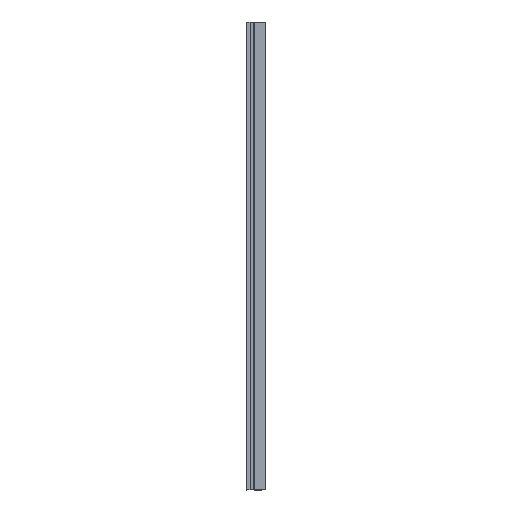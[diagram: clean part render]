
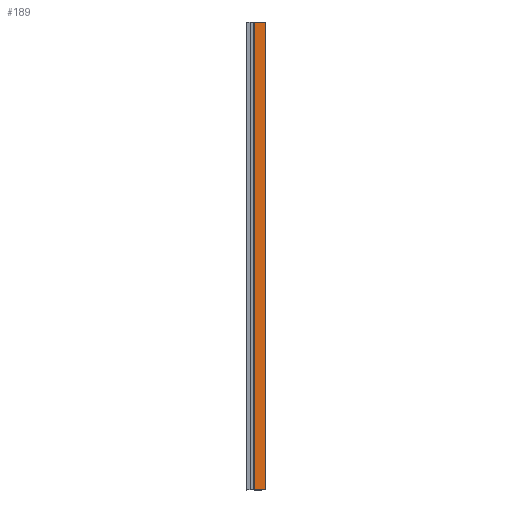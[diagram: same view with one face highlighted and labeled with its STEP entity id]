
A CAD part, front view. The second image highlights one B-rep face of the part: STEP entity #189.
In plain terms, the highlighted planar face has unit normal (0, -1, 0).
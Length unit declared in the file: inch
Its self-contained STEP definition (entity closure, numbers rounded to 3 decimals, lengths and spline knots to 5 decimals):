
#6 = EDGE_LOOP ( 'NONE', ( #961, #141, #252, #46 ) ) ;
#9 = CARTESIAN_POINT ( 'NONE',  ( 2.1, -1.225, 0. ) ) ;
#16 = LINE ( 'NONE', #369, #991 ) ;
#46 = ORIENTED_EDGE ( 'NONE', *, *, #493, .T. ) ;
#51 = CARTESIAN_POINT ( 'NONE',  ( 5., -1.225, 120. ) ) ;
#133 = DIRECTION ( 'NONE',  ( 0., 1., 0. ) ) ;
#136 = CARTESIAN_POINT ( 'NONE',  ( 2.1, -1.225, 120. ) ) ;
#141 = ORIENTED_EDGE ( 'NONE', *, *, #738, .F. ) ;
#189 = ADVANCED_FACE ( 'NONE', ( #620 ), #596, .F. ) ;
#252 = ORIENTED_EDGE ( 'NONE', *, *, #851, .F. ) ;
#275 = CARTESIAN_POINT ( 'NONE',  ( 2.1, -1.225, 120. ) ) ;
#286 = CARTESIAN_POINT ( 'NONE',  ( 2.1, -1.225, 0. ) ) ;
#305 = VERTEX_POINT ( 'NONE', #275 ) ;
#358 = DIRECTION ( 'NONE',  ( 1., 0., 0. ) ) ;
#369 = CARTESIAN_POINT ( 'NONE',  ( 2.1, -1.225, 120. ) ) ;
#409 = CARTESIAN_POINT ( 'NONE',  ( 5., -1.225, 0. ) ) ;
#443 = CARTESIAN_POINT ( 'NONE',  ( 2.1, -1.225, 120. ) ) ;
#470 = CARTESIAN_POINT ( 'NONE',  ( 5., -1.225, 120. ) ) ;
#493 = EDGE_CURVE ( 'NONE', #305, #901, #522, .T. ) ;
#522 = LINE ( 'NONE', #136, #730 ) ;
#596 = PLANE ( 'NONE',  #689 ) ;
#620 = FACE_OUTER_BOUND ( 'NONE', #6, .T. ) ;
#629 = DIRECTION ( 'NONE',  ( 1., 0., 0. ) ) ;
#639 = VERTEX_POINT ( 'NONE', #470 ) ;
#667 = DIRECTION ( 'NONE',  ( 0., 0., -1. ) ) ;
#689 = AXIS2_PLACEMENT_3D ( 'NONE', #443, #133, #955 ) ;
#728 = VERTEX_POINT ( 'NONE', #409 ) ;
#730 = VECTOR ( 'NONE', #939, 39.37008 ) ;
#738 = EDGE_CURVE ( 'NONE', #639, #728, #766, .T. ) ;
#746 = LINE ( 'NONE', #9, #920 ) ;
#766 = LINE ( 'NONE', #51, #969 ) ;
#851 = EDGE_CURVE ( 'NONE', #305, #639, #16, .T. ) ;
#901 = VERTEX_POINT ( 'NONE', #286 ) ;
#920 = VECTOR ( 'NONE', #629, 39.37008 ) ;
#939 = DIRECTION ( 'NONE',  ( 0., 0., -1. ) ) ;
#955 = DIRECTION ( 'NONE',  ( 0., 0., 1. ) ) ;
#961 = ORIENTED_EDGE ( 'NONE', *, *, #998, .T. ) ;
#969 = VECTOR ( 'NONE', #667, 39.37008 ) ;
#991 = VECTOR ( 'NONE', #358, 39.37008 ) ;
#998 = EDGE_CURVE ( 'NONE', #901, #728, #746, .T. ) ;
